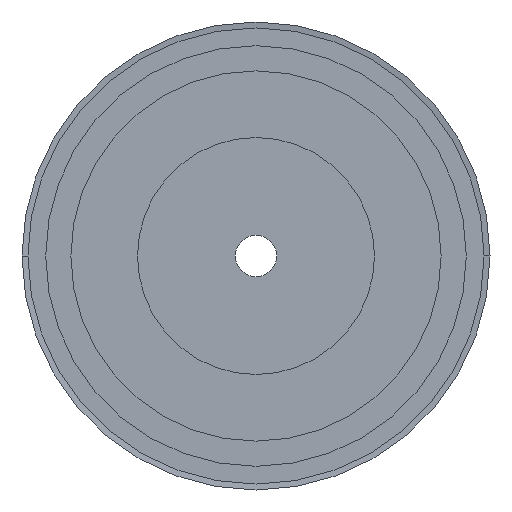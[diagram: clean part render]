
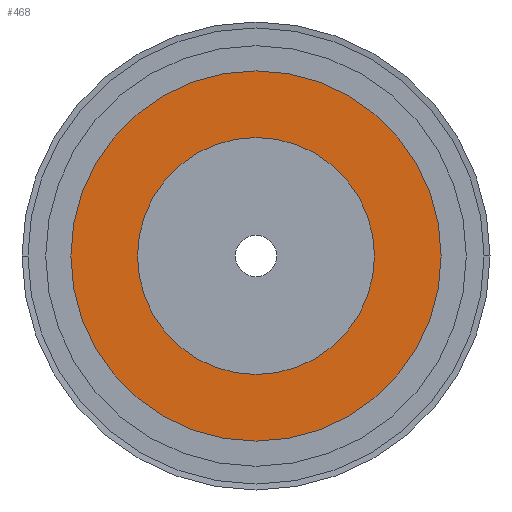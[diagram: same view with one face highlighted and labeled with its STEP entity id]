
A CAD part, left-side view. The second image highlights one B-rep face of the part: STEP entity #468.
In plain terms, the highlighted planar face has unit normal (-1, 0, 0).
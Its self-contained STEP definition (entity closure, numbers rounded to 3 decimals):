
#468 = ADVANCED_FACE( '', ( #1266, #1267 ), #1268, .T. );
#1266 = FACE_BOUND( '', #2068, .T. );
#1267 = FACE_OUTER_BOUND( '', #2069, .T. );
#1268 = PLANE( '', #2070 );
#2068 = EDGE_LOOP( '', ( #5543, #5544 ) );
#2069 = EDGE_LOOP( '', ( #5545, #5546 ) );
#2070 = AXIS2_PLACEMENT_3D( '', #5547, #5548, #5549 );
#5543 = ORIENTED_EDGE( '', *, *, #5565, .F. );
#5544 = ORIENTED_EDGE( '', *, *, #6712, .F. );
#5545 = ORIENTED_EDGE( '', *, *, #6711, .T. );
#5546 = ORIENTED_EDGE( '', *, *, #5569, .T. );
#5547 = CARTESIAN_POINT( '', ( 9.333, 51.25, 0. ) );
#5548 = DIRECTION( '', ( -1., 0., 0. ) );
#5549 = DIRECTION( '', ( 0., 1., 0. ) );
#5565 = EDGE_CURVE( '', #6714, #6717, #6718, .T. );
#5569 = EDGE_CURVE( '', #6725, #6722, #6726, .T. );
#6711 = EDGE_CURVE( '', #6722, #6725, #8625, .T. );
#6712 = EDGE_CURVE( '', #6717, #6714, #8626, .T. );
#6714 = VERTEX_POINT( '', #8628 );
#6717 = VERTEX_POINT( '', #8632 );
#6718 = CIRCLE( '', #8633, 40. );
#6722 = VERTEX_POINT( '', #8638 );
#6725 = VERTEX_POINT( '', #8642 );
#6726 = CIRCLE( '', #8643, 62.5 );
#8625 = CIRCLE( '', #11165, 62.5 );
#8626 = CIRCLE( '', #11166, 40. );
#8628 = CARTESIAN_POINT( '', ( 9.333, 40., 0. ) );
#8632 = CARTESIAN_POINT( '', ( 9.333, -40., 0. ) );
#8633 = AXIS2_PLACEMENT_3D( '', #11169, #11170, #11171 );
#8638 = CARTESIAN_POINT( '', ( 9.333, 62.5, 0. ) );
#8642 = CARTESIAN_POINT( '', ( 9.333, -62.5, 0. ) );
#8643 = AXIS2_PLACEMENT_3D( '', #11177, #11178, #11179 );
#11165 = AXIS2_PLACEMENT_3D( '', #13357, #13358, #13359 );
#11166 = AXIS2_PLACEMENT_3D( '', #13360, #13361, #13362 );
#11169 = CARTESIAN_POINT( '', ( 9.333, 0., 0. ) );
#11170 = DIRECTION( '', ( -1., 0., 0. ) );
#11171 = DIRECTION( '', ( 0., 1., 0. ) );
#11177 = CARTESIAN_POINT( '', ( 9.333, 0., 0. ) );
#11178 = DIRECTION( '', ( -1., 0., 0. ) );
#11179 = DIRECTION( '', ( 0., 1., 0. ) );
#13357 = CARTESIAN_POINT( '', ( 9.333, 0., 0. ) );
#13358 = DIRECTION( '', ( -1., 0., 0. ) );
#13359 = DIRECTION( '', ( 0., 1., 0. ) );
#13360 = CARTESIAN_POINT( '', ( 9.333, 0., 0. ) );
#13361 = DIRECTION( '', ( -1., 0., 0. ) );
#13362 = DIRECTION( '', ( 0., 1., 0. ) );
